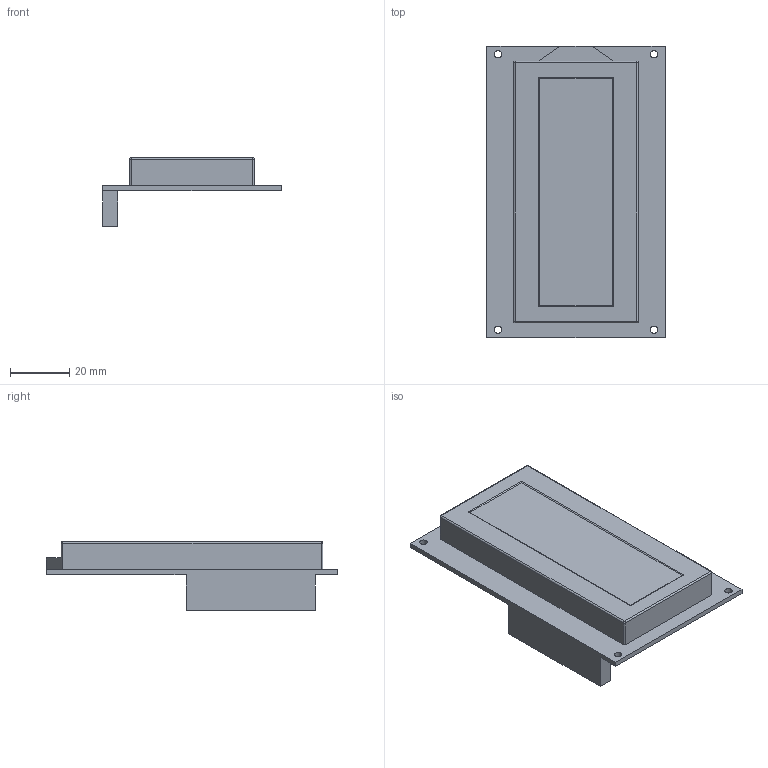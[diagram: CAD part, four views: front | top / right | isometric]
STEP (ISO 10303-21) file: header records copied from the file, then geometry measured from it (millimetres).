
FILE_DESCRIPTION(/* description */ ('Alibre Inc.'),/* implementation_level */ '2;1');
FILE_NAME(/* name */ 'export0',/* time_stamp */ '2013-07-12T11:24:30-06:00',/* author */ (''),/* organization */ (''),/* preprocessor_version */ 'ST-DEVELOPER v14',/* originating_system */ 'Alibre',/* authorisation */ '');
FILE_SCHEMA (('ALIBRE_SCHEMA','CONFIG_CONTROL_DESIGN'));
Length unit declared in the file: centimetre
Products named in the file (1): ID_1
Bounding box: 60 x 98 x 23.2 mm (x, y, z)
Volume: 45977.6 mm3; surface area: 17042.6 mm2
Topology: 1 solids, 1 shells, 44 faces, 112 edges, 68 vertices
Faces by surface type: plane 24, cylinder 16, sphere 4
Full cylindrical faces by diameter (mm): 2.5 x4
Entity records: 3541 total; most frequent: CARTESIAN_POINT 458, DIRECTION 329, CONSTRAINTPAIRUV 263, ORIENTED_EDGE 208, REFERENCEDEPENDENTUV 206, VECTOR 202, REFERENCEPOINTUV 152, LINE 142
